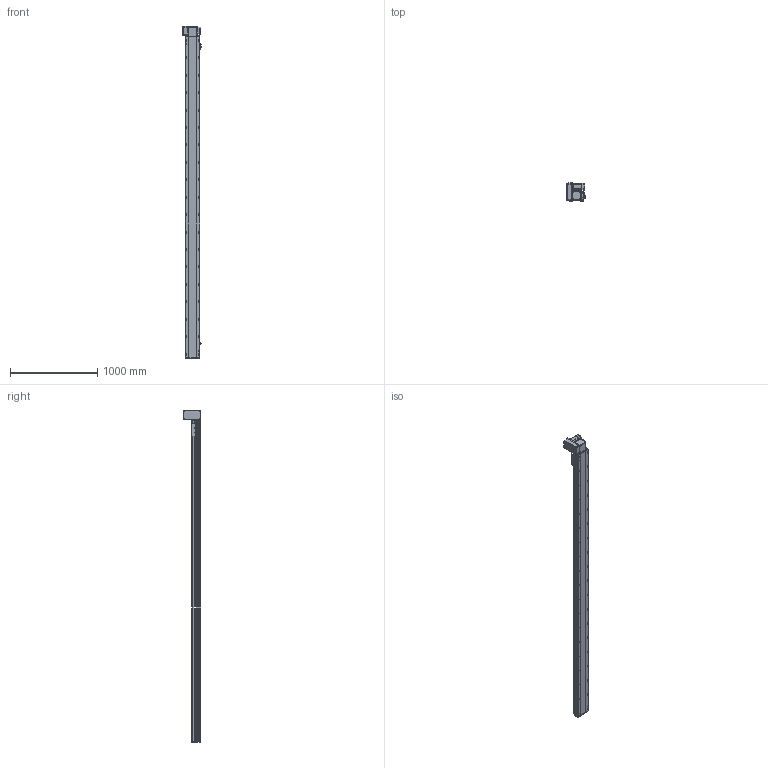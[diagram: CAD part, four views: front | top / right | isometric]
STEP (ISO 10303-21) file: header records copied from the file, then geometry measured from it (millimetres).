
FILE_DESCRIPTION (( 'STEP AP214' ), '1' );
FILE_NAME ('RTB17S-XX-3400-LW-M75-C4.STEP', '2025-12-12T01:22:22', ( '' ), ( '' ), 'SwSTEP 2.0', 'SolidWorks 2018', '' );
FILE_SCHEMA (( 'AUTOMOTIVE_DESIGN' ));
Length unit declared in the file: millimetre
Products named in the file (15): RTB17-R-011菁釱^RTB17S-XX-XX-LW-M75-C4; RTH13-BL-012覜茼え俋离^RTB17S-賑釱_RTB17S-XX-XX-LW-M75-C4; EE672^RTB17S-XX-XX-LW-M75-C4; RTB17S-L-001-耜醱啣^RTB17S-XX-XX-LW-M75-C4; RTB17S-L-014-T20-P75--々湍釱^RTB17S-LW-々湍釱蚾饜-750W_RTB17S-XX-XX-LW-M75-C4; 750W萇儂^RTB17S-XX-XX-LW-M75-C4; RTB17S-賑釱^RTB17S-XX-XX-LW-M75-C4; RTB17S-XX-3400-LW-M75-C4; RTB17S-L-007奻裔^RTB17S-XX-XX-LW-M75-C4; RTB22S-GY-018P^RTB17S-LW-々湍釱蚾饜-750W_RTB17S-XX-XX-LW-M75-C4; RTB22S-GY-008-M75--萇儂啣^RTB17S-LW-々湍釱蚾饜-750W_RTB17S-XX-XX-LW-M75-C4; RTB17S-L-004-賑釱^RTB17S-賑釱_RTB17S-XX-XX-LW-M75-C4; RTB22S-GY-017P^RTB17S-LW-々湍釱蚾饜-750W_RTB17S-XX-XX-LW-M75-C4; RTB17S-LW-々湍釱蚾饜-750W^RTB17S-XX-XX-LW-M75-C4; RTB22S-GY-005P^RTB17S-LW-々湍釱蚾饜-750W_RTB17S-XX-XX-LW-M75-C4
Assembly tree (17 placements, depth 3):
  RTB17S-XX-3400-LW-M75-C4
    RTB17-R-011菁釱^RTB17S-XX-XX-LW-M75-C4
    EE672^RTB17S-XX-XX-LW-M75-C4  x3
    RTB17S-L-001-耜醱啣^RTB17S-XX-XX-LW-M75-C4
    RTB17S-賑釱^RTB17S-XX-XX-LW-M75-C4
      RTB17S-L-004-賑釱^RTB17S-賑釱_RTB17S-XX-XX-LW-M75-C4
      RTH13-BL-012覜茼え俋离^RTB17S-賑釱_RTB17S-XX-XX-LW-M75-C4
    RTB17S-L-007奻裔^RTB17S-XX-XX-LW-M75-C4
    750W萇儂^RTB17S-XX-XX-LW-M75-C4
    RTB17S-LW-々湍釱蚾饜-750W^RTB17S-XX-XX-LW-M75-C4
      RTB17S-L-014-T20-P75--々湍釱^RTB17S-LW-々湍釱蚾饜-750W_RTB17S-XX-XX-LW-M75-C4
      RTB22S-GY-005P^RTB17S-LW-々湍釱蚾饜-750W_RTB17S-XX-XX-LW-M75-C4
      RTB22S-GY-017P^RTB17S-LW-々湍釱蚾饜-750W_RTB17S-XX-XX-LW-M75-C4  x2
      RTB22S-GY-008-M75--萇儂啣^RTB17S-LW-々湍釱蚾饜-750W_RTB17S-XX-XX-LW-M75-C4
      RTB22S-GY-018P^RTB17S-LW-々湍釱蚾饜-750W_RTB17S-XX-XX-LW-M75-C4
Bounding box: 210.4 x 201.5 x 3807.5 mm (x, y, z)
Volume: 27206541.4 mm3; surface area: 5018009.9 mm2
Topology: 17 solids, 17 shells, 2281 faces, 6430 edges, 4166 vertices
Faces by surface type: plane 994, cylinder 871, bspline 294, cone 110, sphere 8, torus 4
Entity records: 67318 total; most frequent: CARTESIAN_POINT 20094, ORIENTED_EDGE 9704, DIRECTION 8942, EDGE_CURVE 4852, AXIS2_PLACEMENT_3D 3186, VERTEX_POINT 3170, VECTOR 2570, LINE 2570
